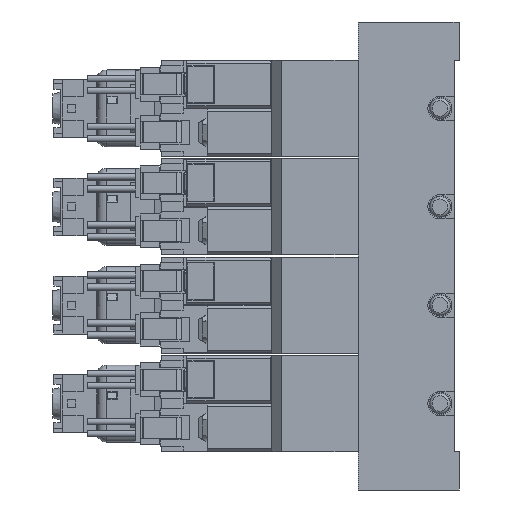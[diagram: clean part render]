
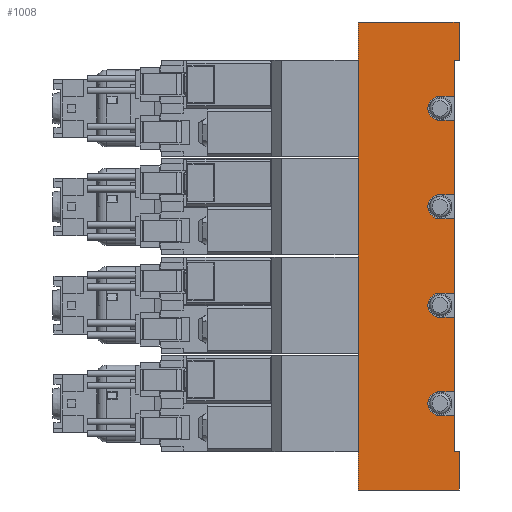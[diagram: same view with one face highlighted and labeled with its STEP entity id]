
A CAD part, left-side view. The second image highlights one B-rep face of the part: STEP entity #1008.
In plain terms, the highlighted planar face has unit normal (-1, 0, 0) as drawn and (1, 0, 0) by its records, which use the part's own axes.
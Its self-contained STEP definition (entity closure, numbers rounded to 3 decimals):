
#1008=ADVANCED_FACE('',(#3604),#3605,.F.);
#3604=FACE_OUTER_BOUND('',#8361,.T.);
#3605=PLANE('',#8362);
#8361=EDGE_LOOP('',(#15636,#15637,#15638,#15639,#15640,#15641,#15642,#15643,#15644,#15645,#15646,#15647,#15648,#15649,#15650,#15651,#15652,#15653,#15654,#15655,#15656,#15657,#15658,#15659));
#8362=AXIS2_PLACEMENT_3D('',#15660,#15661,#15662);
#15636=ORIENTED_EDGE('',*,*,#29767,.T.);
#15637=ORIENTED_EDGE('',*,*,#29671,.T.);
#15638=ORIENTED_EDGE('',*,*,#29750,.F.);
#15639=ORIENTED_EDGE('',*,*,#29649,.F.);
#15640=ORIENTED_EDGE('',*,*,#29707,.T.);
#15641=ORIENTED_EDGE('',*,*,#29768,.T.);
#15642=ORIENTED_EDGE('',*,*,#29698,.T.);
#15643=ORIENTED_EDGE('',*,*,#29756,.F.);
#15644=ORIENTED_EDGE('',*,*,#29733,.F.);
#15645=ORIENTED_EDGE('',*,*,#29769,.F.);
#15646=ORIENTED_EDGE('',*,*,#29694,.T.);
#15647=ORIENTED_EDGE('',*,*,#29714,.F.);
#15648=ORIENTED_EDGE('',*,*,#29770,.F.);
#15649=ORIENTED_EDGE('',*,*,#29631,.F.);
#15650=ORIENTED_EDGE('',*,*,#29692,.T.);
#15651=ORIENTED_EDGE('',*,*,#29701,.F.);
#15652=ORIENTED_EDGE('',*,*,#29771,.F.);
#15653=ORIENTED_EDGE('',*,*,#29772,.F.);
#15654=ORIENTED_EDGE('',*,*,#29688,.T.);
#15655=ORIENTED_EDGE('',*,*,#29678,.F.);
#15656=ORIENTED_EDGE('',*,*,#29642,.F.);
#15657=ORIENTED_EDGE('',*,*,#29773,.F.);
#15658=ORIENTED_EDGE('',*,*,#29685,.T.);
#15659=ORIENTED_EDGE('',*,*,#29764,.T.);
#15660=CARTESIAN_POINT('',(17.5,1.0,48.75));
#15661=DIRECTION('',(-1.0,0.0,0.0));
#15662=DIRECTION('',(0.0,0.0,1.0));
#29631=EDGE_CURVE('',#35990,#35991,#35992,.T.);
#29642=EDGE_CURVE('',#36011,#36013,#36014,.T.);
#29649=EDGE_CURVE('',#36025,#36027,#36028,.T.);
#29671=EDGE_CURVE('',#36068,#36069,#36070,.T.);
#29678=EDGE_CURVE('',#36013,#36082,#36083,.T.);
#29685=EDGE_CURVE('',#36096,#36093,#36097,.T.);
#29688=EDGE_CURVE('',#36101,#36082,#36102,.T.);
#29692=EDGE_CURVE('',#35990,#36107,#36109,.T.);
#29694=EDGE_CURVE('',#36112,#36110,#36113,.T.);
#29698=EDGE_CURVE('',#36120,#36118,#36121,.T.);
#29701=EDGE_CURVE('',#36125,#36107,#36126,.T.);
#29707=EDGE_CURVE('',#36025,#36135,#36136,.T.);
#29714=EDGE_CURVE('',#36146,#36110,#36147,.T.);
#29733=EDGE_CURVE('',#36178,#36180,#36181,.T.);
#29750=EDGE_CURVE('',#36027,#36069,#36209,.T.);
#29756=EDGE_CURVE('',#36180,#36118,#36218,.T.);
#29764=EDGE_CURVE('',#36093,#36229,#36231,.T.);
#29767=EDGE_CURVE('',#36229,#36068,#36236,.T.);
#29768=EDGE_CURVE('',#36135,#36120,#36237,.T.);
#29769=EDGE_CURVE('',#36112,#36178,#36238,.T.);
#29770=EDGE_CURVE('',#35991,#36146,#36239,.T.);
#29771=EDGE_CURVE('',#36240,#36125,#36241,.T.);
#29772=EDGE_CURVE('',#36101,#36240,#36242,.T.);
#29773=EDGE_CURVE('',#36096,#36011,#36243,.T.);
#35990=VERTEX_POINT('',#45614);
#35991=VERTEX_POINT('',#45615);
#35992=LINE('',#45616,#45617);
#36011=VERTEX_POINT('',#45640);
#36013=VERTEX_POINT('',#45643);
#36014=CIRCLE('',#45644,2.5);
#36025=VERTEX_POINT('',#45659);
#36027=VERTEX_POINT('',#45662);
#36028=LINE('',#45663,#45664);
#36068=VERTEX_POINT('',#45839);
#36069=VERTEX_POINT('',#45840);
#36070=LINE('',#45841,#45842);
#36082=VERTEX_POINT('',#45859);
#36083=LINE('',#45860,#45861);
#36093=VERTEX_POINT('',#45874);
#36096=VERTEX_POINT('',#45878);
#36097=LINE('',#45879,#45880);
#36101=VERTEX_POINT('',#45886);
#36102=LINE('',#45887,#45888);
#36107=VERTEX_POINT('',#45895);
#36109=LINE('',#45898,#45899);
#36110=VERTEX_POINT('',#45900);
#36112=VERTEX_POINT('',#45903);
#36113=LINE('',#45904,#45905);
#36118=VERTEX_POINT('',#45912);
#36120=VERTEX_POINT('',#45915);
#36121=LINE('',#45916,#45917);
#36125=VERTEX_POINT('',#45923);
#36126=LINE('',#45924,#45925);
#36135=VERTEX_POINT('',#45937);
#36136=LINE('',#45938,#45939);
#36146=VERTEX_POINT('',#45951);
#36147=LINE('',#45952,#45953);
#36178=VERTEX_POINT('',#45991);
#36180=VERTEX_POINT('',#45994);
#36181=CIRCLE('',#45995,2.5);
#36209=LINE('',#46028,#46029);
#36218=LINE('',#46040,#46041);
#36229=VERTEX_POINT('',#46054);
#36231=LINE('',#46057,#46058);
#36236=LINE('',#46063,#46064);
#36237=LINE('',#46065,#46066);
#36238=LINE('',#46067,#46068);
#36239=CIRCLE('',#46069,2.5);
#36240=VERTEX_POINT('',#46070);
#36241=CIRCLE('',#46071,2.5);
#36242=LINE('',#46072,#46073);
#36243=LINE('',#46074,#46075);
#45614=CARTESIAN_POINT('',(17.5,1.0,7.75));
#45615=CARTESIAN_POINT('',(17.5,4.0,7.75));
#45616=CARTESIAN_POINT('',(17.5,1.0,7.75));
#45617=VECTOR('',#57652,1.0);
#45640=CARTESIAN_POINT('',(17.5,4.0,-33.25));
#45643=CARTESIAN_POINT('',(17.5,4.0,-28.25));
#45644=AXIS2_PLACEMENT_3D('',#57673,#57674,#57675);
#45659=CARTESIAN_POINT('',(17.5,0.0,48.75));
#45662=CARTESIAN_POINT('',(17.5,21.0,48.75));
#45663=CARTESIAN_POINT('',(17.5,1.0,48.75));
#45664=VECTOR('',#57684,1.0);
#45839=CARTESIAN_POINT('',(17.5,0.0,-48.75));
#45840=CARTESIAN_POINT('',(17.5,21.0,-48.75));
#45841=CARTESIAN_POINT('',(17.5,1.0,-48.75));
#45842=VECTOR('',#57733,1.0);
#45859=CARTESIAN_POINT('',(17.5,1.0,-28.25));
#45860=CARTESIAN_POINT('',(17.5,1.0,-28.25));
#45861=VECTOR('',#57742,1.0);
#45874=CARTESIAN_POINT('',(17.5,1.0,-40.75));
#45878=CARTESIAN_POINT('',(17.5,1.0,-33.25));
#45879=CARTESIAN_POINT('',(17.5,1.0,48.75));
#45880=VECTOR('',#57753,1.0);
#45886=CARTESIAN_POINT('',(17.5,1.0,-12.75));
#45887=CARTESIAN_POINT('',(17.5,1.0,48.75));
#45888=VECTOR('',#57756,1.0);
#45895=CARTESIAN_POINT('',(17.5,1.0,-7.75));
#45898=CARTESIAN_POINT('',(17.5,1.0,48.75));
#45899=VECTOR('',#57760,1.0);
#45900=CARTESIAN_POINT('',(17.5,1.0,12.75));
#45903=CARTESIAN_POINT('',(17.5,1.0,28.25));
#45904=CARTESIAN_POINT('',(17.5,1.0,48.75));
#45905=VECTOR('',#57762,1.0);
#45912=CARTESIAN_POINT('',(17.5,1.0,33.25));
#45915=CARTESIAN_POINT('',(17.5,1.0,40.75));
#45916=CARTESIAN_POINT('',(17.5,1.0,48.75));
#45917=VECTOR('',#57766,1.0);
#45923=CARTESIAN_POINT('',(17.5,4.0,-7.75));
#45924=CARTESIAN_POINT('',(17.5,1.0,-7.75));
#45925=VECTOR('',#57769,1.0);
#45937=CARTESIAN_POINT('',(17.5,0.0,40.75));
#45938=CARTESIAN_POINT('',(17.5,0.0,48.75));
#45939=VECTOR('',#57779,1.0);
#45951=CARTESIAN_POINT('',(17.5,4.0,12.75));
#45952=CARTESIAN_POINT('',(17.5,1.0,12.75));
#45953=VECTOR('',#57791,1.0);
#45991=CARTESIAN_POINT('',(17.5,4.0,28.25));
#45994=CARTESIAN_POINT('',(17.5,4.0,33.25));
#45995=AXIS2_PLACEMENT_3D('',#57830,#57831,#57832);
#46028=CARTESIAN_POINT('',(17.5,21.0,48.75));
#46029=VECTOR('',#57868,1.0);
#46040=CARTESIAN_POINT('',(17.5,1.0,33.25));
#46041=VECTOR('',#57880,1.0);
#46054=CARTESIAN_POINT('',(17.5,0.0,-40.75));
#46057=CARTESIAN_POINT('',(17.5,4.0,-40.75));
#46058=VECTOR('',#57896,1.0);
#46063=CARTESIAN_POINT('',(17.5,0.0,-40.75));
#46064=VECTOR('',#57903,1.0);
#46065=CARTESIAN_POINT('',(17.5,0.0,40.75));
#46066=VECTOR('',#57904,1.0);
#46067=CARTESIAN_POINT('',(17.5,1.0,28.25));
#46068=VECTOR('',#57905,1.0);
#46069=AXIS2_PLACEMENT_3D('',#57906,#57907,#57908);
#46070=CARTESIAN_POINT('',(17.5,4.0,-12.75));
#46071=AXIS2_PLACEMENT_3D('',#57909,#57910,#57911);
#46072=CARTESIAN_POINT('',(17.5,1.0,-12.75));
#46073=VECTOR('',#57912,1.0);
#46074=CARTESIAN_POINT('',(17.5,1.0,-33.25));
#46075=VECTOR('',#57913,1.0);
#57652=DIRECTION('',(0.0,1.0,0.0));
#57673=CARTESIAN_POINT('',(17.5,4.0,-30.75));
#57674=DIRECTION('',(1.0,0.0,-0.0));
#57675=DIRECTION('',(0.0,0.0,1.0));
#57684=DIRECTION('',(0.0,1.0,0.0));
#57733=DIRECTION('',(0.0,1.0,0.0));
#57742=DIRECTION('',(0.0,-1.0,0.0));
#57753=DIRECTION('',(0.0,0.0,-1.0));
#57756=DIRECTION('',(0.0,0.0,-1.0));
#57760=DIRECTION('',(0.0,0.0,-1.0));
#57762=DIRECTION('',(0.0,0.0,-1.0));
#57766=DIRECTION('',(0.0,0.0,-1.0));
#57769=DIRECTION('',(0.0,-1.0,0.0));
#57779=DIRECTION('',(0.0,0.0,-1.0));
#57791=DIRECTION('',(0.0,-1.0,0.0));
#57830=CARTESIAN_POINT('',(17.5,4.0,30.75));
#57831=DIRECTION('',(1.0,0.0,-0.0));
#57832=DIRECTION('',(0.0,0.0,1.0));
#57868=DIRECTION('',(0.0,0.0,-1.0));
#57880=DIRECTION('',(0.0,-1.0,0.0));
#57896=DIRECTION('',(0.0,-1.0,0.0));
#57903=DIRECTION('',(0.0,0.0,-1.0));
#57904=DIRECTION('',(0.0,1.0,0.0));
#57905=DIRECTION('',(0.0,1.0,0.0));
#57906=CARTESIAN_POINT('',(17.5,4.0,10.25));
#57907=DIRECTION('',(1.0,0.0,-0.0));
#57908=DIRECTION('',(0.0,0.0,1.0));
#57909=CARTESIAN_POINT('',(17.5,4.0,-10.25));
#57910=DIRECTION('',(1.0,0.0,-0.0));
#57911=DIRECTION('',(0.0,0.0,1.0));
#57912=DIRECTION('',(0.0,1.0,0.0));
#57913=DIRECTION('',(0.0,1.0,0.0));
